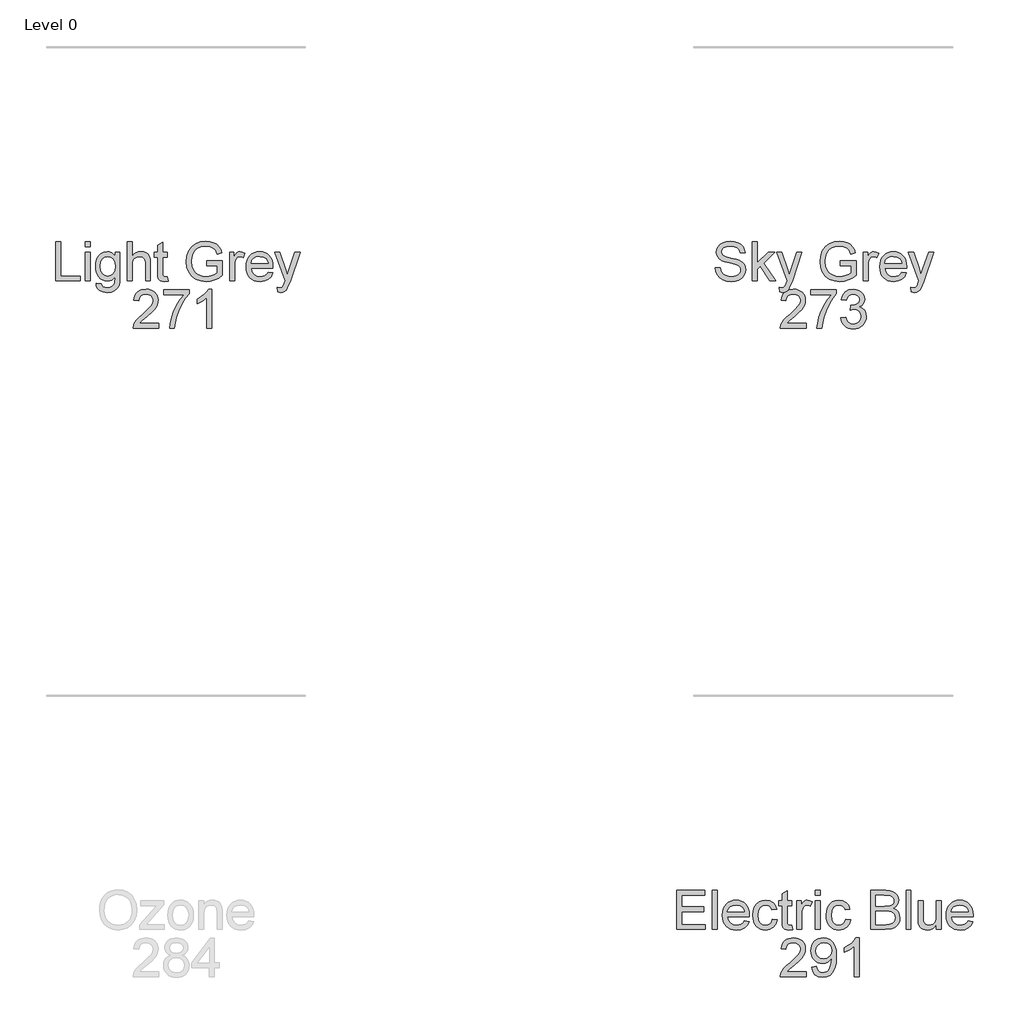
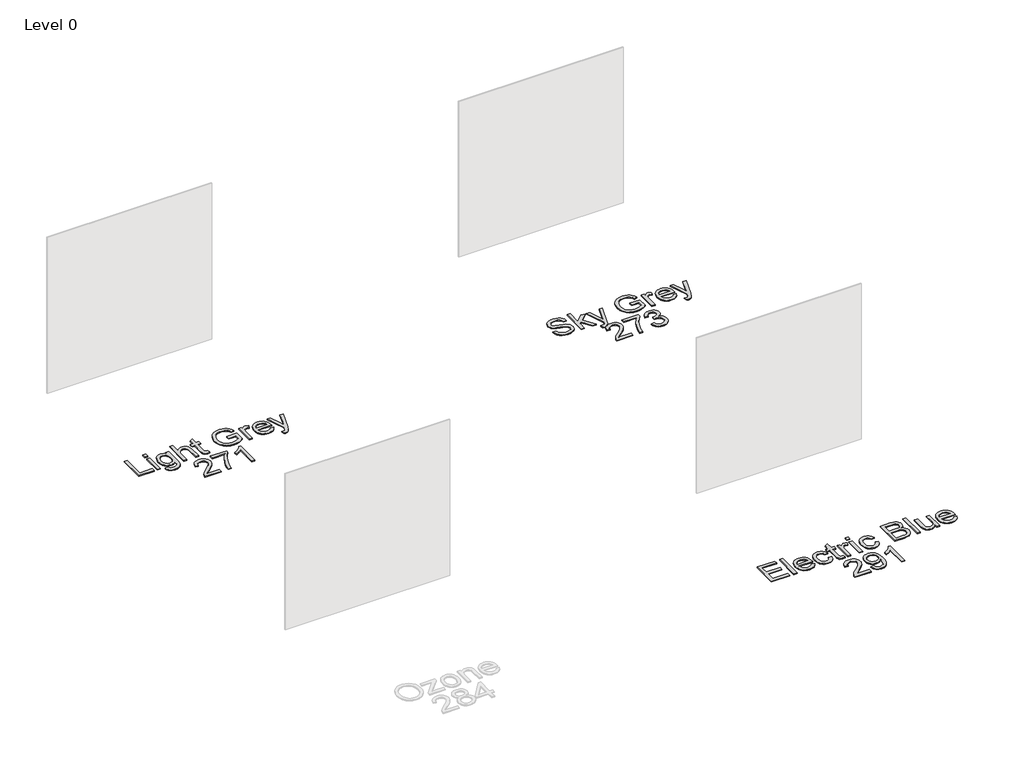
# One storey, part 9 of 15: 3 proxies.
"""IFC4 building model written with IfcOpenShell, lengths in millimetres."""

from ifc_helpers import new_model, si_unit, origin, origin_with_axes, place, context, project, spatial, polyline, outline, extrude, element, save

model = new_model("IFC4")

# Units and contexts
model_context = context("Model", 3, world=origin())
ifc_project = project(units=[si_unit("LENGTHUNIT", "METRE", prefix="MILLI")], contexts=[model_context])

# Site, building, storey
site = spatial("IfcSite", under=ifc_project)
building = spatial("IfcBuilding", under=site)
storey = spatial("IfcBuildingStorey", under=building, Name="Level 0", Elevation=0.0)

# Proxies
placement = place(None, origin())
element("IfcBuildingElementProxy", 1, Name="300mm Arial", ObjectType="300mm Arial", at=placement, inside=storey, context=model_context, shape_type="SweptSolid", body=[
    extrude(outline(polyline([(9713.5140507, -31908.3498647), (9751.185167, -31908.3498647), (9755.5077804, -31929.2547591), (9763.3252728, -31946.0577692), (9775.5205609, -31959.3934915), (9792.9765616, -31969.8965225), (9814.3137173, -31976.7115365), (9838.1524706, -31978.9832078), (9859.1401384, -31977.2633595), (9877.5158441, -31972.1038145), (9892.4058679, -31963.9368342), (9902.93649, -31953.1946799), (9909.1996809, -31940.861436), (9911.2874113, -31927.9211869), (9909.7239128, -31915.3120315), (9905.0334173, -31904.4135274), (9895.5052737, -31895.1153099), (9879.4288305, -31887.3070146), (9824.577625, -31872.9228286), (9788.5711747, -31863.4038819), (9765.5325648, -31854.3447878), (9746.7797801, -31841.6712531), (9733.490043, -31826.3121798), (9725.571383, -31808.5986617), (9722.9318297, -31788.8617927), (9726.1967824, -31766.79807), (9735.9916406, -31746.2242694), (9752.0588867, -31728.7866629), (9774.1410035, -31716.1315222), (9800.6469012, -31708.4335915), (9829.9854903, -31705.8676146), (9861.7704947, -31708.5531531), (9889.5823735, -31716.6097688), (9912.4278454, -31729.8719147), (9929.313629, -31748.174044), (9940.000601, -31770.3757224), (9944.249638, -31795.3365158), (9906.5785217, -31795.3365158), (9899.6623402, -31772.8589259), (9885.241366, -31756.6353299), (9862.7085938, -31746.8128806), (9831.4570183, -31743.5387309), (9799.4696788, -31746.7760924), (9777.5255178, -31756.4881771), (9764.833589, -31770.7803926), (9760.602946, -31787.7581467), (9763.6011843, -31802.2343032), (9772.5958991, -31813.8777683), (9793.8594784, -31824.2888288), (9834.1057687, -31834.9206185), (9875.6396459, -31845.0189792), (9900.7659862, -31853.829753), (9922.2410977, -31867.4965691), (9937.2230919, -31884.3639586), (9946.0246687, -31904.2479805), (9948.9585276, -31926.9646937), (9945.5832103, -31950.1872446), (9935.4572583, -31972.0302381), (9918.9945391, -31990.829008), (9896.6089197, -32004.9188884), (9869.6891547, -32013.7204652), (9839.6239986, -32016.6543241), (9802.7162374, -32013.4905389), (9772.3383817, -32003.9991835), (9748.1409434, -31988.1434695), (9729.7744348, -31965.8866088), (9717.9838169, -31938.7737057), (9713.5140507, -31908.3498647)])), origin_with_axes(), (0.0, 0.0, 1.0), 10.0),
    extrude(outline(polyline([(10000.7563125, -32011.9454346), (10000.7563125, -31710.5765041), (10038.4274288, -31710.5765041), (10038.4274288, -31872.5181584), (10122.8931349, -31790.6276263), (10174.9852254, -31790.6276263), (10089.4894497, -31873.548228), (10179.6941149, -32011.9454346), (10135.6954283, -32011.9454346), (10062.4869113, -31899.741426), (10038.4274288, -31923.0651445), (10038.4274288, -32011.9454346), (10000.7563125, -32011.9454346)])), origin_with_axes(), (0.0, 0.0, 1.0), 10.0),
    extrude(outline(polyline([(10212.6563417, -32096.7054462), (10207.9474522, -32060.4322815), (10227.0773159, -32063.7432195), (10244.9563809, -32059.5861529), (10255.9192643, -32047.9978701), (10266.2199602, -32020.2595676), (10269.1630162, -32011.1360942), (10189.111894, -31790.6276263), (10228.8431495, -31790.6276263), (10271.2967317, -31913.5002126), (10286.0855879, -31962.6492472), (10300.8744442, -31919.2391718), (10344.5052488, -31790.6276263), (10383.9421987, -31790.6276263), (10306.9077089, -32017.2429353), (10286.8949283, -32066.3919698), (10276.6494148, -32082.0821369), (10265.0427378, -32092.9530499), (10251.5598627, -32099.2990143), (10235.6857546, -32101.4143358), (10212.6563417, -32096.7054462)])), origin_with_axes(), (0.0, 0.0, 1.0), 10.0),
    extrude(outline(polyline([(10678.836406, -31894.2231961), (10678.836406, -31856.5520798), (10801.267534, -31856.5520798), (10801.267534, -31969.1975467), (10771.5150776, -31989.8909089), (10740.8245222, -32004.7349474), (10709.269444, -32013.6744799), (10676.9234196, -32016.6543241), (10634.6629754, -32011.9178434), (10596.4676273, -31997.7084013), (10564.7378052, -31974.5226386), (10541.8739392, -31942.8571959), (10528.0507732, -31904.8733799), (10523.4430512, -31862.7324973), (10528.0323791, -31820.2881121), (10541.8003628, -31780.805177), (10564.1767851, -31747.6866004), (10594.5914291, -31724.3352907), (10631.637146, -31710.4845336), (10673.9067873, -31705.8676146), (10704.9376336, -31708.5439561), (10732.8414829, -31716.5729806), (10756.3399453, -31729.3752741), (10774.1546309, -31746.3714222), (10787.3340034, -31768.3799626), (10796.9265264, -31796.2194326), (10762.1984661, -31806.0050937), (10754.4453531, -31786.148663), (10745.0183769, -31771.1666687), (10732.5471773, -31759.8726915), (10715.6613937, -31751.0803118), (10695.5290515, -31745.4241261), (10673.3181761, -31743.5387309), (10647.3181161, -31745.5712789), (10625.0888465, -31751.668923), (10606.7131408, -31761.0683079), (10592.2737725, -31773.0060787), (10572.8863914, -31802.0319681), (10564.0572235, -31830.4692463), (10561.1141675, -31861.1873929), (10564.6550317, -31897.2122373), (10575.2776244, -31926.8543291), (10592.6600486, -31949.9021361), (10616.4804078, -31966.1441262), (10644.356666, -31975.7734374), (10673.9067873, -31978.9832078), (10699.9988178, -31976.5643837), (10725.4470548, -31969.3079113), (10747.5475656, -31959.3107181), (10763.5964177, -31948.6697314), (10763.5964177, -31894.2231961), (10678.836406, -31894.2231961)])), origin_with_axes(), (0.0, 0.0, 1.0), 10.0),
    extrude(outline(polyline([(10857.7742084, -32011.9454346), (10857.7742084, -31790.6276263), (10890.7364352, -31790.6276263), (10890.7364352, -31823.3691238), (10902.9133293, -31804.3864129), (10914.1337301, -31793.2028002), (10925.3909192, -31787.7397526), (10937.6781778, -31785.9187367), (10956.4401596, -31788.8250045), (10975.4964469, -31797.5438078), (10962.9148827, -31831.3153749), (10949.6711308, -31825.5212335), (10936.427379, -31823.589853), (10925.179387, -31825.4476571), (10915.1270115, -31831.0210693), (10907.0060165, -31839.8870254), (10901.5521659, -31851.6224611), (10896.972035, -31872.6653112), (10895.4453248, -31895.6211477), (10895.4453248, -32011.9454346), (10857.7742084, -32011.9454346)])), origin_with_axes(), (0.0, 0.0, 1.0), 10.0),
    extrude(outline(polyline([(11153.992791, -31946.020981), (11190.9281433, -31950.7298706), (11177.6200121, -31978.5601435), (11156.3840239, -31999.3638703), (11127.6984254, -32012.3317106), (11092.041463, -32016.6543241), (11068.6671607, -32014.7896222), (11047.8404413, -32009.1955166), (11029.5613046, -31999.8720073), (11013.8297508, -31986.8190943), (11001.1792087, -31970.400061), (10992.1431072, -31950.9781909), (10986.7214463, -31928.553484), (10984.914226, -31903.1259404), (10986.7398404, -31876.8361733), (10992.2166836, -31853.6642061), (11001.3447556, -31833.6100389), (11014.1240564, -31816.6736715), (11029.8142235, -31803.2183875), (11047.6748944, -31793.6074704), (11067.706069, -31787.8409201), (11089.9077474, -31785.9187367), (11111.3943552, -31787.8363216), (11130.8254223, -31793.5890763), (11148.2009488, -31803.1770008), (11163.5209346, -31816.6000951), (11176.0266232, -31833.4996743), (11184.9592579, -31853.5170533), (11190.3188387, -31876.6522323), (11192.1053657, -31902.9052112), (11191.8846365, -31913.0587542), (11022.5853423, -31913.0587542), (11029.1060507, -31941.2569092), (11044.2535918, -31961.9870596), (11066.1149794, -31974.7341707), (11092.777227, -31978.9832078), (11112.8267957, -31977.0150391), (11129.7125793, -31971.1105331), (11143.4345777, -31960.9018077), (11153.992791, -31946.020981)]), holes=[polyline([(11022.5853423, -31875.3876379), (11154.4342494, -31875.3876379), (11149.3390837, -31855.485222), (11139.3510876, -31841.2481888), (11117.3885324, -31828.004437), (11089.7605946, -31823.589853), (11064.3675399, -31827.1123231), (11043.370675, -31837.6797334), (11028.7749569, -31854.1516498), (11022.5853423, -31875.3876379)])]), origin_with_axes(), (0.0, 0.0, 1.0), 10.0),
    extrude(outline(polyline([(11229.776482, -32096.7054462), (11225.0675924, -32060.4322815), (11244.1974562, -32063.7432195), (11262.0765211, -32059.5861529), (11273.0394046, -32047.9978701), (11283.3401005, -32020.2595676), (11286.2831564, -32011.1360942), (11206.2320343, -31790.6276263), (11245.9632898, -31790.6276263), (11288.416872, -31913.5002126), (11303.2057282, -31962.6492472), (11317.9945844, -31919.2391718), (11361.625389, -31790.6276263), (11401.0623389, -31790.6276263), (11324.0278491, -32017.2429353), (11304.0150686, -32066.3919698), (11293.769555, -32082.0821369), (11282.1628781, -32092.9530499), (11268.680003, -32099.2990143), (11252.8058949, -32101.4143358), (11229.776482, -32096.7054462)])), origin_with_axes(), (0.0, 0.0, 1.0), 10.0),
    extrude(outline(polyline([(10415.1385919, -32340.1987718), (10415.1385919, -32377.8698881), (10217.3652312, -32377.8698881), (10221.4119332, -32351.8974192), (10230.7009536, -32331.5995301), (10244.2941933, -32311.9086464), (10263.9574859, -32291.2980576), (10291.4566651, -32268.2410535), (10332.1076255, -32232.1334357), (10356.4982018, -32205.4803851), (10368.69349, -32183.8489238), (10372.758586, -32162.8060737), (10368.9234162, -32143.9429244), (10357.4179068, -32128.2619544), (10339.7319799, -32117.694544), (10317.3555575, -32114.1720739), (10293.8570951, -32117.6117706), (10275.6009511, -32127.9308606), (10263.8195302, -32144.3200034), (10259.7452371, -32165.9698589), (10222.0741208, -32161.2609693), (10231.2067913, -32124.8222577), (10239.7531499, -32110.2863204), (10250.9528574, -32098.2059954), (10264.5483964, -32088.7100414), (10280.2822495, -32081.9272171), (10318.1648979, -32076.5009576), (10338.3547217, -32078.0092738), (10356.3234579, -32082.5342224), (10372.0711065, -32090.0758033), (10385.5976676, -32100.6340165), (10396.4616828, -32113.4271129), (10404.2216936, -32127.6733432), (10408.8777001, -32143.3727073), (10410.4297023, -32160.5252053), (10408.7558392, -32178.5422261), (10403.73425, -32196.2465471), (10394.8223087, -32214.2543707), (10381.4773893, -32233.1818994), (10360.2046129, -32255.7790509), (10327.5091006, -32284.7957433), (10284.1726016, -32321.0321198), (10267.1764534, -32340.1987718), (10415.1385919, -32340.1987718)])), origin_with_axes(), (0.0, 0.0, 1.0), 10.0),
    extrude(outline(polyline([(10452.8097082, -32118.8809635), (10452.8097082, -32081.2098472), (10650.5830688, -32081.2098472), (10650.5830688, -32111.6704764), (10622.3941109, -32147.3458329), (10594.4810645, -32192.7148799), (10569.860562, -32243.6389451), (10551.5492357, -32295.979356), (10542.572915, -32335.1403943), (10537.5697198, -32377.8698881), (10499.8986035, -32377.8698881), (10503.9728966, -32339.0399435), (10514.8714007, -32292.8891472), (10532.2998103, -32243.9700389), (10555.9638196, -32196.8351583), (10583.5917574, -32154.2252262), (10612.9119525, -32118.8809635), (10452.8097082, -32118.8809635)])), origin_with_axes(), (0.0, 0.0, 1.0), 10.0),
    extrude(outline(polyline([(10683.5452955, -32297.8187659), (10721.2164118, -32293.1098764), (10729.6501066, -32316.7830828), (10742.0017446, -32332.7675555), (10758.8783311, -32341.8726349), (10780.8868715, -32344.9076613), (10806.7121875, -32340.7322007), (10826.6513917, -32328.2058187), (10839.3985028, -32309.5174134), (10843.6475398, -32286.8558825), (10839.435291, -32265.3439828), (10826.7985445, -32247.8971792), (10807.6686807, -32236.3364875), (10783.9770802, -32232.4829236), (10757.563153, -32236.6032019), (10761.7570077, -32198.9320856), (10767.7902724, -32199.373544), (10790.3598328, -32196.6696114), (10810.5381603, -32188.5578134), (10824.7751935, -32174.8358149), (10829.5208712, -32155.301281), (10826.0811746, -32139.0316998), (10815.7620846, -32125.8339332), (10800.0167352, -32117.0875388), (10780.2982603, -32114.1720739), (10760.5429971, -32117.1151299), (10744.3929775, -32125.9442978), (10732.6023596, -32140.6595776), (10725.9253014, -32161.2609693), (10688.2541851, -32156.5520798), (10699.3458272, -32122.7253303), (10719.0826963, -32097.4702314), (10746.0852347, -32081.7432761), (10778.9738851, -32076.5009576), (10802.6562885, -32079.0853287), (10824.4073115, -32086.8384417), (10842.7462289, -32099.070518), (10856.1923159, -32115.0917789), (10864.4420696, -32133.550258), (10867.1919875, -32153.093989), (10864.5800254, -32171.3041478), (10856.7441389, -32187.8220494), (10843.7946926, -32201.8935357), (10825.8420513, -32212.7644487), (10849.4232872, -32222.2925923), (10866.8976819, -32238.5161883), (10877.7134126, -32260.5523198), (10881.3186561, -32287.5180701), (10879.5160344, -32306.6295397), (10874.108169, -32324.2326932), (10865.0950602, -32340.3275305), (10852.4767077, -32354.9140516), (10837.1038388, -32367.0173692), (10819.8271806, -32375.6625961), (10800.6467331, -32380.8497322), (10779.5624963, -32382.5787776), (10760.5062089, -32381.1026511), (10743.1421788, -32376.6742716), (10727.4704058, -32369.2936391), (10713.4908899, -32358.9607535), (10701.7692499, -32346.2826203), (10692.8711041, -32331.8662446), (10686.7964527, -32315.7116265), (10683.5452955, -32297.8187659)])), origin_with_axes(), (0.0, 0.0, 1.0), 10.0),
])
element("IfcBuildingElementProxy", 2, Name="300mm Arial", ObjectType="300mm Arial", at=placement, inside=storey, context=model_context, shape_type="SweptSolid", body=[
    extrude(outline(polyline([(4621.6907047, -32011.9454346), (4621.6907047, -31710.5765041), (4659.361821, -31710.5765041), (4659.361821, -31974.2743182), (4810.0462862, -31974.2743182), (4810.0462862, -32011.9454346), (4621.6907047, -32011.9454346)])), origin_with_axes(), (0.0, 0.0, 1.0), 10.0),
    extrude(outline(polyline([(4847.7174025, -32011.9454346), (4847.7174025, -31790.6276263), (4885.3885188, -31790.6276263), (4885.3885188, -32011.9454346), (4847.7174025, -32011.9454346)])), origin_with_axes(), (0.0, 0.0, 1.0), 10.0),
    extrude(outline(polyline([(4847.7174025, -31748.2476204), (4847.7174025, -31710.5765041), (4885.3885188, -31710.5765041), (4885.3885188, -31748.2476204), (4847.7174025, -31748.2476204)])), origin_with_axes(), (0.0, 0.0, 1.0), 10.0),
    extrude(outline(polyline([(4932.4774142, -32030.7809927), (4970.1485305, -32035.4898822), (4974.305597, -32047.2621061), (4982.3622127, -32055.35551), (4998.1995326, -32061.6462921), (5018.929683, -32063.7432195), (5041.039391, -32061.3703806), (5057.4837161, -32054.251864), (5068.888058, -32042.8475221), (5075.8778159, -32027.6172075), (5078.4529899, -31983.6920973), (5065.9174109, -31996.0529324), (5051.928698, -32004.8821002), (5036.4868513, -32010.179601), (5019.5918706, -32011.9454346), (4998.9375959, -32009.8898939), (4980.752729, -32003.723272), (4965.03727, -31993.4455687), (4951.7912189, -31979.0567842), (4941.2812902, -31961.7939216), (4933.7741982, -31942.8939841), (4929.269943, -31922.3569717), (4927.7685246, -31900.1828844), (4930.4632603, -31869.7682405), (4938.5474671, -31841.8000118), (4951.7360366, -31818.0992142), (4969.7438603, -31800.4868637), (4991.9547358, -31789.5607685), (5017.7524607, -31785.9187367), (5035.3694097, -31787.9788759), (5051.3584809, -31794.1592934), (5065.7196743, -31804.4599893), (5078.4529899, -31818.8809635), (5078.4529899, -31790.6276263), (5116.1241062, -31790.6276263), (5116.1241062, -31981.7055345), (5113.5489322, -32025.8237828), (5105.8234103, -32054.8772634), (5092.5152791, -32074.1450829), (5073.1922773, -32088.9063479), (5048.2774692, -32098.2873388), (5018.1939191, -32101.4143358), (4983.143962, -32097.0089489), (4955.5436153, -32083.7927882), (4945.1486497, -32073.8714707), (4937.8392943, -32061.7290655), (4933.6155491, -32047.3655729), (4932.4774142, -32030.7809927)]), holes=[polyline([(4965.4396409, -31897.6077105), (4969.4587517, -31932.1610268), (4981.5160841, -31955.9170067), (4999.6434694, -31969.6849904), (5021.872739, -31974.2743182), (5043.9364617, -31969.7125815), (5062.1558175, -31956.0273713), (5074.3786968, -31932.5748941), (5078.4529899, -31898.7113564), (5074.2591351, -31866.0526323), (5061.6775709, -31842.5357758), (5043.1915006, -31828.3263337), (5021.2841278, -31823.589853), (4999.7722281, -31828.2527573), (4981.7368133, -31842.2414702), (4969.513934, -31865.4088388), (4965.4396409, -31897.6077105)])]), origin_with_axes(), (0.0, 0.0, 1.0), 10.0),
    extrude(outline(polyline([(5172.6307806, -32011.9454346), (5172.6307806, -31710.5765041), (5210.3018969, -31710.5765041), (5210.3018969, -31821.382561), (5224.1388585, -31805.8671379), (5239.6772743, -31794.7846928), (5256.9171443, -31788.1352257), (5275.8584685, -31785.9187367), (5298.6119699, -31788.3375608), (5318.1648979, -31795.5940332), (5333.5607594, -31807.1179367), (5343.8430612, -31822.3390542), (5349.6372026, -31843.2531457), (5351.5685831, -31871.8559708), (5351.5685831, -32011.9454346), (5313.8974668, -32011.9454346), (5313.8974668, -31875.7555199), (5310.8992285, -31852.174284), (5301.9045137, -31836.0242645), (5287.4099631, -31826.6984559), (5267.9122174, -31823.589853), (5251.992124, -31825.6867804), (5237.046918, -31831.9775625), (5224.6676888, -31841.8551941), (5216.4455263, -31854.7126698), (5211.8378043, -31871.8007885), (5210.3018969, -31894.3703489), (5210.3018969, -32011.9454346), (5172.6307806, -32011.9454346)])), origin_with_axes(), (0.0, 0.0, 1.0), 10.0),
    extrude(outline(polyline([(5483.4174902, -31980.5283122), (5488.1263797, -32013.0490805), (5459.9466189, -32016.6543241), (5441.8652188, -32015.0908256), (5428.3823437, -32010.4003302), (5418.8542, -32003.171449), (5412.6369943, -31993.9927932), (5409.2156917, -31978.2290497), (5408.0752575, -31951.2449053), (5408.0752575, -31828.2987426), (5379.8219203, -31828.2987426), (5379.8219203, -31790.6276263), (5408.0752575, -31790.6276263), (5408.0752575, -31736.8432786), (5445.7463739, -31714.6967824), (5445.7463739, -31790.6276263), (5483.4174902, -31790.6276263), (5483.4174902, -31828.2987426), (5445.7463739, -31828.2987426), (5445.7463739, -31950.1412594), (5447.7329366, -31969.5654287), (5454.1708715, -31976.444822), (5467.0099532, -31978.9832078), (5483.4174902, -31980.5283122)])), origin_with_axes(), (0.0, 0.0, 1.0), 10.0),
    extrude(outline(polyline([(5784.7864206, -31894.2231961), (5784.7864206, -31856.5520798), (5907.2175486, -31856.5520798), (5907.2175486, -31969.1975467), (5877.4650922, -31989.8909089), (5846.7745368, -32004.7349474), (5815.2194587, -32013.6744799), (5782.8734342, -32016.6543241), (5740.61299, -32011.9178434), (5702.4176419, -31997.7084013), (5670.6878198, -31974.5226386), (5647.8239538, -31942.8571959), (5634.0007878, -31904.8733799), (5629.3930658, -31862.7324973), (5633.9823937, -31820.2881121), (5647.7503774, -31780.805177), (5670.1267998, -31747.6866004), (5700.5414437, -31724.3352907), (5737.5871606, -31710.4845336), (5779.8568019, -31705.8676146), (5810.8876482, -31708.5439561), (5838.7914975, -31716.5729806), (5862.2899599, -31729.3752741), (5880.1046456, -31746.3714222), (5893.284018, -31768.3799626), (5902.8765411, -31796.2194326), (5868.1484807, -31806.0050937), (5860.3953677, -31786.148663), (5850.9683915, -31771.1666687), (5838.4971919, -31759.8726915), (5821.6114083, -31751.0803118), (5801.4790661, -31745.4241261), (5779.2681907, -31743.5387309), (5753.2681307, -31745.5712789), (5731.0388611, -31751.668923), (5712.6631555, -31761.0683079), (5698.2237871, -31773.0060787), (5678.836406, -31802.0319681), (5670.0072381, -31830.4692463), (5667.0641821, -31861.1873929), (5670.6050464, -31897.2122373), (5681.227639, -31926.8543291), (5698.6100632, -31949.9021361), (5722.4304224, -31966.1441262), (5750.3066806, -31975.7734374), (5779.8568019, -31978.9832078), (5805.9488324, -31976.5643837), (5831.3970694, -31969.3079113), (5853.4975803, -31959.3107181), (5869.5464323, -31948.6697314), (5869.5464323, -31894.2231961), (5784.7864206, -31894.2231961)])), origin_with_axes(), (0.0, 0.0, 1.0), 10.0),
    extrude(outline(polyline([(5963.7242231, -32011.9454346), (5963.7242231, -31790.6276263), (5996.6864498, -31790.6276263), (5996.6864498, -31823.3691238), (6008.8633439, -31804.3864129), (6020.0837447, -31793.2028002), (6031.3409338, -31787.7397526), (6043.6281924, -31785.9187367), (6062.3901742, -31788.8250045), (6081.4464615, -31797.5438078), (6068.8648973, -31831.3153749), (6055.6211455, -31825.5212335), (6042.3773936, -31823.589853), (6031.1294016, -31825.4476571), (6021.0770261, -31831.0210693), (6012.9560311, -31839.8870254), (6007.5021805, -31851.6224611), (6002.9220496, -31872.6653112), (6001.3953394, -31895.6211477), (6001.3953394, -32011.9454346), (5963.7242231, -32011.9454346)])), origin_with_axes(), (0.0, 0.0, 1.0), 10.0),
    extrude(outline(polyline([(6259.9428056, -31946.020981), (6296.8781579, -31950.7298706), (6283.5700267, -31978.5601435), (6262.3340385, -31999.3638703), (6233.64844, -32012.3317106), (6197.9914776, -32016.6543241), (6174.6171753, -32014.7896222), (6153.7904559, -32009.1955166), (6135.5113192, -31999.8720073), (6119.7797654, -31986.8190943), (6107.1292233, -31970.400061), (6098.0931218, -31950.9781909), (6092.6714609, -31928.553484), (6090.8642406, -31903.1259404), (6092.689855, -31876.8361733), (6098.1666982, -31853.6642061), (6107.2947702, -31833.6100389), (6120.074071, -31816.6736715), (6135.7642381, -31803.2183875), (6153.624909, -31793.6074704), (6173.6560836, -31787.8409201), (6195.857762, -31785.9187367), (6217.3443698, -31787.8363216), (6236.7754369, -31793.5890763), (6254.1509634, -31803.1770008), (6269.4709493, -31816.6000951), (6281.9766378, -31833.4996743), (6290.9092725, -31853.5170533), (6296.2688533, -31876.6522323), (6298.0553803, -31902.9052112), (6297.8346511, -31913.0587542), (6128.5353569, -31913.0587542), (6135.0560653, -31941.2569092), (6150.2036064, -31961.9870596), (6172.064994, -31974.7341707), (6198.7272416, -31978.9832078), (6218.7768103, -31977.0150391), (6235.6625939, -31971.1105331), (6249.3845923, -31960.9018077), (6259.9428056, -31946.020981)]), holes=[polyline([(6128.5353569, -31875.3876379), (6260.384264, -31875.3876379), (6255.2890983, -31855.485222), (6245.3011022, -31841.2481888), (6223.3385471, -31828.004437), (6195.7106092, -31823.589853), (6170.3175545, -31827.1123231), (6149.3206896, -31837.6797334), (6134.7249715, -31854.1516498), (6128.5353569, -31875.3876379)])]), origin_with_axes(), (0.0, 0.0, 1.0), 10.0),
    extrude(outline(polyline([(6335.7264966, -32096.7054462), (6331.017607, -32060.4322815), (6350.1474708, -32063.7432195), (6368.0265358, -32059.5861529), (6378.9894192, -32047.9978701), (6389.2901151, -32020.2595676), (6392.233171, -32011.1360942), (6312.1820489, -31790.6276263), (6351.9133044, -31790.6276263), (6394.3668866, -31913.5002126), (6409.1557428, -31962.6492472), (6423.944599, -31919.2391718), (6467.5754037, -31790.6276263), (6507.0123535, -31790.6276263), (6429.9778637, -32017.2429353), (6409.9650832, -32066.3919698), (6399.7195696, -32082.0821369), (6388.1128927, -32092.9530499), (6374.6300176, -32099.2990143), (6358.7559095, -32101.4143358), (6335.7264966, -32096.7054462)])), origin_with_axes(), (0.0, 0.0, 1.0), 10.0),
    extrude(outline(polyline([(5415.1385919, -32340.1987718), (5415.1385919, -32377.8698881), (5217.3652312, -32377.8698881), (5221.4119332, -32351.8974192), (5230.7009536, -32331.5995301), (5244.2941933, -32311.9086464), (5263.9574859, -32291.2980576), (5291.4566651, -32268.2410535), (5332.1076255, -32232.1334357), (5356.4982018, -32205.4803851), (5368.69349, -32183.8489238), (5372.758586, -32162.8060737), (5368.9234162, -32143.9429244), (5357.4179068, -32128.2619544), (5339.7319799, -32117.694544), (5317.3555575, -32114.1720739), (5293.8570951, -32117.6117706), (5275.6009511, -32127.9308606), (5263.8195302, -32144.3200034), (5259.7452371, -32165.9698589), (5222.0741208, -32161.2609693), (5231.2067913, -32124.8222577), (5239.7531499, -32110.2863204), (5250.9528574, -32098.2059954), (5264.5483964, -32088.7100414), (5280.2822495, -32081.9272171), (5318.1648979, -32076.5009576), (5338.3547217, -32078.0092738), (5356.3234579, -32082.5342224), (5372.0711065, -32090.0758033), (5385.5976676, -32100.6340165), (5396.4616828, -32113.4271129), (5404.2216936, -32127.6733432), (5408.8777001, -32143.3727073), (5410.4297023, -32160.5252053), (5408.7558392, -32178.5422261), (5403.73425, -32196.2465471), (5394.8223087, -32214.2543707), (5381.4773893, -32233.1818994), (5360.2046129, -32255.7790509), (5327.5091006, -32284.7957433), (5284.1726016, -32321.0321198), (5267.1764534, -32340.1987718), (5415.1385919, -32340.1987718)])), origin_with_axes(), (0.0, 0.0, 1.0), 10.0),
    extrude(outline(polyline([(5452.8097082, -32118.8809635), (5452.8097082, -32081.2098472), (5650.5830688, -32081.2098472), (5650.5830688, -32111.6704764), (5622.3941109, -32147.3458329), (5594.4810645, -32192.7148799), (5569.860562, -32243.6389451), (5551.5492357, -32295.979356), (5542.572915, -32335.1403943), (5537.5697198, -32377.8698881), (5499.8986035, -32377.8698881), (5503.9728966, -32339.0399435), (5514.8714007, -32292.8891472), (5532.2998103, -32243.9700389), (5555.9638196, -32196.8351583), (5583.5917574, -32154.2252262), (5612.9119525, -32118.8809635), (5452.8097082, -32118.8809635)])), origin_with_axes(), (0.0, 0.0, 1.0), 10.0),
    extrude(outline(polyline([(5824.8119817, -32377.8698881), (5787.1408654, -32377.8698881), (5787.1408654, -32143.0140224), (5751.4563118, -32168.4346682), (5711.7986328, -32187.4541674), (5711.7986328, -32151.8431903), (5741.3855422, -32135.748353), (5767.0177202, -32116.6000951), (5787.2236388, -32096.2378267), (5800.53177, -32076.5009576), (5824.8119817, -32076.5009576), (5824.8119817, -32377.8698881)])), origin_with_axes(), (0.0, 0.0, 1.0), 10.0),
])
element("IfcBuildingElementProxy", 3, Name="300mm Arial", ObjectType="300mm Arial", at=placement, inside=storey, context=model_context, shape_type="SweptSolid", body=[
    extrude(outline(polyline([(9416.8540097, -37021.0303751), (9416.8540097, -36719.6614447), (9633.4629285, -36719.6614447), (9633.4629285, -36757.332561), (9454.525126, -36757.332561), (9454.525126, -36846.8014622), (9624.0451494, -36846.8014622), (9624.0451494, -36884.4725785), (9454.525126, -36884.4725785), (9454.525126, -36983.3592588), (9638.171818, -36983.3592588), (9638.171818, -37021.0303751), (9416.8540097, -37021.0303751)])), origin_with_axes(), (0.0, 0.0, 1.0), 10.0),
    extrude(outline(polyline([(9689.969603, -37021.0303751), (9689.969603, -36719.6614447), (9727.6407193, -36719.6614447), (9727.6407193, -37021.0303751), (9689.969603, -37021.0303751)])), origin_with_axes(), (0.0, 0.0, 1.0), 10.0),
    extrude(outline(polyline([(9939.0992901, -36955.1059216), (9976.0346424, -36959.8148111), (9962.7265112, -36987.6450841), (9941.4905231, -37008.4488109), (9912.8049245, -37021.4166512), (9877.1479621, -37025.7392647), (9853.7736598, -37023.8745628), (9832.9469404, -37018.2804572), (9814.6678037, -37008.9569479), (9798.9362499, -36995.9040349), (9786.2857078, -36979.4850016), (9777.2496063, -36960.0631315), (9771.8279454, -36937.6384246), (9770.0207251, -36912.2108809), (9771.8463395, -36885.9211139), (9777.3231827, -36862.7491467), (9786.4512547, -36842.6949794), (9799.2305555, -36825.7586121), (9814.9207226, -36812.3033281), (9832.7813935, -36802.692411), (9852.8125681, -36796.9258607), (9875.0142465, -36795.0036773), (9896.5008543, -36796.9212622), (9915.9319214, -36802.6740169), (9933.3074479, -36812.2619414), (9948.6274338, -36825.6850357), (9961.1331223, -36842.5846148), (9970.065757, -36862.6019939), (9975.4253379, -36885.7371729), (9977.2118648, -36911.9901518), (9976.9911356, -36922.1436948), (9807.6918414, -36922.1436948), (9814.2125498, -36950.3418497), (9829.3600909, -36971.0720002), (9851.2214785, -36983.8191113), (9877.8837261, -36988.0681484), (9897.9332948, -36986.0999797), (9914.8190784, -36980.1954737), (9928.5410768, -36969.9867483), (9939.0992901, -36955.1059216)]), holes=[polyline([(9807.6918414, -36884.4725785), (9939.5407485, -36884.4725785), (9934.4455829, -36864.5701626), (9924.4575867, -36850.3331294), (9902.4950316, -36837.0893775), (9874.8670937, -36832.6747936), (9849.474039, -36836.1972637), (9828.4771741, -36846.764674), (9813.881456, -36863.2365903), (9807.6918414, -36884.4725785)])]), origin_with_axes(), (0.0, 0.0, 1.0), 10.0),
    extrude(outline(polyline([(10156.1496672, -36940.979253), (10193.8207836, -36945.6881425), (10183.3177526, -36979.1929952), (10163.5808836, -37004.5124735), (10136.4679805, -37020.4325669), (10103.8368475, -37025.7392647), (10082.7089247, -37023.8883584), (10063.7653012, -37018.3356395), (10047.0059771, -37009.0811081), (10032.4309523, -36996.124764), (10020.6334365, -36979.7103293), (10012.2066396, -36960.0815256), (10007.1505614, -36937.2383529), (10005.465202, -36911.1808114), (10008.3438786, -36877.6575646), (10016.9799085, -36848.604084), (10031.5112473, -36825.1424097), (10052.0758508, -36808.3945819), (10076.6779592, -36798.3514034), (10103.3218127, -36795.0036773), (10135.1528024, -36799.6022022), (10160.6010394, -36813.397777), (10178.8571834, -36835.6546378), (10189.111894, -36865.6370204), (10151.4407777, -36870.3459099), (10144.6073696, -36853.9107818), (10133.9663829, -36842.1293609), (10120.1064288, -36835.0384354), (10103.6161183, -36832.6747936), (10079.2715273, -36837.3285008), (10059.9485255, -36851.2896225), (10047.3393701, -36875.3123168), (10043.1363183, -36910.1507418), (10047.2473996, -36945.4582163), (10059.5806435, -36969.563684), (10078.5541574, -36983.4420323), (10102.5860487, -36988.0681484), (10122.0929915, -36985.1802747), (10138.0866613, -36976.5166537), (10149.7209294, -36961.8565562), (10156.1496672, -36940.979253)])), origin_with_axes(), (0.0, 0.0, 1.0), 10.0),
    extrude(outline(polyline([(10306.8341325, -36989.6132527), (10311.543022, -37022.1340211), (10283.3632612, -37025.7392647), (10265.2818611, -37024.1757662), (10251.798986, -37019.4852707), (10242.2708423, -37012.2563895), (10236.0536366, -37003.0777338), (10232.632334, -36987.3139903), (10231.4918999, -36960.3298459), (10231.4918999, -36837.3836831), (10203.2385626, -36837.3836831), (10203.2385626, -36799.7125668), (10231.4918999, -36799.7125668), (10231.4918999, -36745.9282191), (10269.1630162, -36723.781723), (10269.1630162, -36799.7125668), (10306.8341325, -36799.7125668), (10306.8341325, -36837.3836831), (10269.1630162, -36837.3836831), (10269.1630162, -36959.2261999), (10271.1495789, -36978.6503693), (10277.5875139, -36985.5297626), (10290.4265955, -36988.0681484), (10306.8341325, -36989.6132527)])), origin_with_axes(), (0.0, 0.0, 1.0), 10.0),
    extrude(outline(polyline([(10344.5052488, -37021.0303751), (10344.5052488, -36799.7125668), (10377.4674755, -36799.7125668), (10377.4674755, -36832.4540644), (10389.6443696, -36813.4713534), (10400.8647704, -36802.2877408), (10412.1219595, -36796.8246932), (10424.4092181, -36795.0036773), (10443.1711999, -36797.909945), (10462.2274872, -36806.6287483), (10449.645923, -36840.4003155), (10436.4021712, -36834.6061741), (10423.1584193, -36832.6747936), (10411.9104273, -36834.5325977), (10401.8580518, -36840.1060099), (10393.7370568, -36848.971966), (10388.2832062, -36860.7074016), (10383.7030754, -36881.7502517), (10382.1763651, -36904.7060882), (10382.1763651, -37021.0303751), (10344.5052488, -37021.0303751)])), origin_with_axes(), (0.0, 0.0, 1.0), 10.0),
    extrude(outline(polyline([(10485.7719349, -36757.332561), (10485.7719349, -36719.6614447), (10523.4430512, -36719.6614447), (10523.4430512, -36757.332561), (10485.7719349, -36757.332561)])), origin_with_axes(), (0.0, 0.0, 1.0), 10.0),
    extrude(outline(polyline([(10485.7719349, -37021.0303751), (10485.7719349, -36799.7125668), (10523.4430512, -36799.7125668), (10523.4430512, -37021.0303751), (10485.7719349, -37021.0303751)])), origin_with_axes(), (0.0, 0.0, 1.0), 10.0),
    extrude(outline(polyline([(10721.2164118, -36940.979253), (10758.8875281, -36945.6881425), (10748.3844972, -36979.1929952), (10728.6476281, -37004.5124735), (10701.5347251, -37020.4325669), (10668.9035921, -37025.7392647), (10647.7756693, -37023.8883584), (10628.8320458, -37018.3356395), (10612.0727217, -37009.0811081), (10597.4976969, -36996.124764), (10585.7001811, -36979.7103293), (10577.2733842, -36960.0815256), (10572.217306, -36937.2383529), (10570.5319466, -36911.1808114), (10573.4106232, -36877.6575646), (10582.0466531, -36848.604084), (10596.5779919, -36825.1424097), (10617.1425954, -36808.3945819), (10641.7447038, -36798.3514034), (10668.3885573, -36795.0036773), (10700.219547, -36799.6022022), (10725.667784, -36813.397777), (10743.923928, -36835.6546378), (10754.1786386, -36865.6370204), (10716.5075223, -36870.3459099), (10709.6741142, -36853.9107818), (10699.0331275, -36842.1293609), (10685.1731734, -36835.0384354), (10668.6828629, -36832.6747936), (10644.3382719, -36837.3285008), (10625.0152701, -36851.2896225), (10612.4061147, -36875.3123168), (10608.2030629, -36910.1507418), (10612.3141442, -36945.4582163), (10624.6473881, -36969.563684), (10643.620902, -36983.4420323), (10667.6527933, -36988.0681484), (10687.1597361, -36985.1802747), (10703.1534059, -36976.5166537), (10714.787674, -36961.8565562), (10721.2164118, -36940.979253)])), origin_with_axes(), (0.0, 0.0, 1.0), 10.0),
    extrude(outline(polyline([(10914.2808829, -37021.0303751), (10914.2808829, -36719.6614447), (11029.2807946, -36719.6614447), (11060.9094491, -36721.8779337), (11085.6035281, -36728.5274008), (11104.5310567, -36739.7753928), (11118.8600604, -36755.7874566), (11127.8823664, -36774.6230148), (11130.8898017, -36794.3414897), (11128.360613, -36812.4872691), (11120.7730468, -36829.5477966), (11108.0719209, -36844.4746086), (11090.202053, -36856.2192413), (11111.5484058, -36867.3660657), (11127.3213463, -36884.3254257), (11137.0610221, -36905.9752811), (11140.3075807, -36931.1935919), (11138.0910917, -36952.2088509), (11131.4416247, -36971.6973996), (11121.5180078, -36988.2704835), (11109.4790695, -37000.539348), (11094.7361986, -37009.4236982), (11076.7007838, -37015.843239), (11028.3978778, -37021.0303751), (10914.2808829, -37021.0303751)]), holes=[polyline([(10951.9519992, -36842.0925727), (11020.7459323, -36842.0925727), (11060.9186462, -36838.8552111), (11074.9809355, -36833.2726018), (11085.0884933, -36824.9124835), (11091.1861373, -36813.9036148), (11093.2186854, -36800.3747544), (11091.3240931, -36787.2413672), (11085.6403163, -36775.8002371), (11076.4248723, -36766.8699017), (11063.9352785, -36761.2688983), (11015.522008, -36757.332561), (10951.9519992, -36757.332561), (10951.9519992, -36842.0925727)]), polyline([(10951.9519992, -36983.3592588), (11029.2072182, -36983.3592588), (11057.1662498, -36981.8877308), (11080.8210621, -36973.6839623), (11096.4928351, -36956.9453316), (11101.1005571, -36945.1179254), (11102.6364644, -36931.5614739), (11100.8338427, -36915.8161245), (11095.4259773, -36902.2780671), (11085.9806071, -36891.6922627), (11072.0654706, -36884.8036723), (11052.3561927, -36881.0236848), (11025.5283982, -36879.763689), (10951.9519992, -36879.763689), (10951.9519992, -36983.3592588)])]), origin_with_axes(), (0.0, 0.0, 1.0), 10.0),
    extrude(outline(polyline([(11187.3964761, -37021.0303751), (11187.3964761, -36719.6614447), (11225.0675924, -36719.6614447), (11225.0675924, -37021.0303751), (11187.3964761, -37021.0303751)])), origin_with_axes(), (0.0, 0.0, 1.0), 10.0),
    extrude(outline(polyline([(11422.840953, -37021.0303751), (11422.840953, -36982.9913768), (11409.2109251, -37001.6935777), (11393.336817, -37015.0522927), (11375.2186288, -37023.0675217), (11354.8563603, -37025.7392647), (11336.5082458, -37023.8630665), (11319.4293242, -37018.234472), (11305.1003205, -37009.7731861), (11295.0019597, -36999.3989138), (11283.7815589, -36971.6606114), (11281.5742669, -36936.6382454), (11281.5742669, -36799.7125668), (11319.2453832, -36799.7125668), (11319.2453832, -36918.9063333), (11321.5262516, -36957.3132136), (11327.0168903, -36970.124704), (11336.4254724, -36979.8643799), (11349.1265983, -36986.0172062), (11364.4948686, -36988.0681484), (11380.7460557, -36985.971221), (11395.9487792, -36979.6804389), (11408.4843582, -36969.7752161), (11416.7341119, -36956.834967), (11421.3142428, -36939.1122518), (11422.840953, -36914.8596313), (11422.840953, -36799.7125668), (11460.5120693, -36799.7125668), (11460.5120693, -37021.0303751), (11422.840953, -37021.0303751)])), origin_with_axes(), (0.0, 0.0, 1.0), 10.0),
    extrude(outline(polyline([(11667.2617506, -36955.1059216), (11704.197103, -36959.8148111), (11690.8889718, -36987.6450841), (11669.6529836, -37008.4488109), (11640.967385, -37021.4166512), (11605.3104226, -37025.7392647), (11581.9361204, -37023.8745628), (11561.1094009, -37018.2804572), (11542.8302643, -37008.9569479), (11527.0987105, -36995.9040349), (11514.4481684, -36979.4850016), (11505.4120669, -36960.0631315), (11499.990406, -36937.6384246), (11498.1831857, -36912.2108809), (11500.0088001, -36885.9211139), (11505.4856433, -36862.7491467), (11514.6137153, -36842.6949794), (11527.3930161, -36825.7586121), (11543.0831832, -36812.3033281), (11560.943854, -36802.692411), (11580.9750287, -36796.9258607), (11603.1767071, -36795.0036773), (11624.6633149, -36796.9212622), (11644.094382, -36802.6740169), (11661.4699085, -36812.2619414), (11676.7898943, -36825.6850357), (11689.2955829, -36842.5846148), (11698.2282176, -36862.6019939), (11703.5877984, -36885.7371729), (11705.3743253, -36911.9901518), (11705.1535961, -36922.1436948), (11535.854302, -36922.1436948), (11542.3750103, -36950.3418497), (11557.5225515, -36971.0720002), (11579.383939, -36983.8191113), (11606.0461866, -36988.0681484), (11626.0957554, -36986.0999797), (11642.981539, -36980.1954737), (11656.7035374, -36969.9867483), (11667.2617506, -36955.1059216)]), holes=[polyline([(11535.854302, -36884.4725785), (11667.703209, -36884.4725785), (11662.6080434, -36864.5701626), (11652.6200472, -36850.3331294), (11630.6574921, -36837.0893775), (11603.0295543, -36832.6747936), (11577.6364996, -36836.1972637), (11556.6396347, -36846.764674), (11542.0439165, -36863.2365903), (11535.854302, -36884.4725785)])]), origin_with_axes(), (0.0, 0.0, 1.0), 10.0),
    extrude(outline(polyline([(10415.1385919, -37349.2837124), (10415.1385919, -37386.9548287), (10217.3652312, -37386.9548287), (10221.4119332, -37360.9823598), (10230.7009536, -37340.6844707), (10244.2941933, -37320.9935869), (10263.9574859, -37300.3829981), (10291.4566651, -37277.3259941), (10332.1076255, -37241.2183763), (10356.4982018, -37214.5653257), (10368.69349, -37192.9338644), (10372.758586, -37171.8910143), (10368.9234162, -37153.027865), (10357.4179068, -37137.3468949), (10339.7319799, -37126.7794846), (10317.3555575, -37123.2570145), (10293.8570951, -37126.6967112), (10275.6009511, -37137.0158011), (10263.8195302, -37153.404944), (10259.7452371, -37175.0547994), (10222.0741208, -37170.3459099), (10231.2067913, -37133.9071983), (10239.7531499, -37119.3712609), (10250.9528574, -37107.2909359), (10264.5483964, -37097.7949819), (10280.2822495, -37091.0121576), (10318.1648979, -37085.5858982), (10338.3547217, -37087.0942144), (10356.3234579, -37091.6191629), (10372.0711065, -37099.1607438), (10385.5976676, -37109.7189571), (10396.4616828, -37122.5120535), (10404.2216936, -37136.7582837), (10408.8777001, -37152.4576479), (10410.4297023, -37169.6101459), (10408.7558392, -37187.6271666), (10403.73425, -37205.3314876), (10394.8223087, -37223.3393113), (10381.4773893, -37242.26684), (10360.2046129, -37264.8639915), (10327.5091006, -37293.8806839), (10284.1726016, -37330.1170604), (10267.1764534, -37349.2837124), (10415.1385919, -37349.2837124)])), origin_with_axes(), (0.0, 0.0, 1.0), 10.0),
    extrude(outline(polyline([(10457.5185977, -37311.612596), (10495.189714, -37306.9037065), (10501.6276489, -37328.2868475), (10512.1122858, -37342.8457774), (10526.3861072, -37351.2058958), (10544.1915958, -37353.9926019), (10560.1668714, -37352.1991772), (10574.6890132, -37346.818903), (10586.7555426, -37338.4403905), (10595.3639813, -37327.652251), (10607.6880281, -37294.9107535), (10613.1326817, -37251.2063724), (10612.9119525, -37243.8487325), (10599.8613387, -37259.7780229), (10582.7824171, -37272.3963754), (10562.9075923, -37280.618538), (10541.469269, -37283.3592588), (10523.5741092, -37281.6853957), (10507.1182877, -37276.6638065), (10492.1018045, -37268.2944911), (10478.5246596, -37256.5774496), (10467.2743684, -37242.1242857), (10459.238446, -37225.5466033), (10454.4168926, -37206.8444023), (10452.8097082, -37186.0176829), (10454.4950675, -37164.4965862), (10459.5511457, -37145.1827814), (10467.9779427, -37128.0762687), (10479.7754584, -37113.1770478), (10494.1113599, -37101.1059199), (10510.1533142, -37092.4836856), (10527.9013212, -37087.3103451), (10547.3553809, -37085.5858982), (10575.4523683, -37089.5222356), (10601.029364, -37101.3312476), (10622.421702, -37120.4243232), (10637.9647163, -37146.212851), (10647.4284807, -37181.8606163), (10650.5830688, -37230.5314043), (10647.4376777, -37282.1360512), (10638.0015045, -37322.0236565), (10622.3573227, -37351.9968421), (10600.5879056, -37373.8582296), (10573.6313524, -37387.2123461), (10542.4257622, -37391.6637182), (10510.2176935, -37386.4122027), (10484.5211361, -37370.6576563), (10466.5501007, -37345.3933603), (10457.5185977, -37311.612596)]), holes=[polyline([(10612.9119525, -37185.1347661), (10608.8468564, -37159.6037556), (10596.6515683, -37139.9588571), (10577.7240396, -37127.4324752), (10553.462222, -37123.2570145), (10528.2990936, -37127.7543719), (10508.1391602, -37141.2464441), (10494.8954084, -37161.8938211), (10490.4808245, -37187.8570929), (10494.6562851, -37211.1348261), (10507.182667, -37229.6116993), (10526.8459597, -37241.6690317), (10552.4321525, -37245.6881425), (10576.500832, -37241.6690317), (10595.8790161, -37229.6116993), (10608.6537184, -37210.4542444), (10612.9119525, -37185.1347661)])]), origin_with_axes(), (0.0, 0.0, 1.0), 10.0),
    extrude(outline(polyline([(10824.8119817, -37386.9548287), (10787.1408654, -37386.9548287), (10787.1408654, -37152.0989629), (10751.4563118, -37177.5196088), (10711.7986328, -37196.539108), (10711.7986328, -37160.9281308), (10741.3855422, -37144.8332935), (10767.0177202, -37125.6850357), (10787.2236388, -37105.3227672), (10800.53177, -37085.5858982), (10824.8119817, -37085.5858982), (10824.8119817, -37386.9548287)])), origin_with_axes(), (0.0, 0.0, 1.0), 10.0),
])

save(model, "model.ifc")
